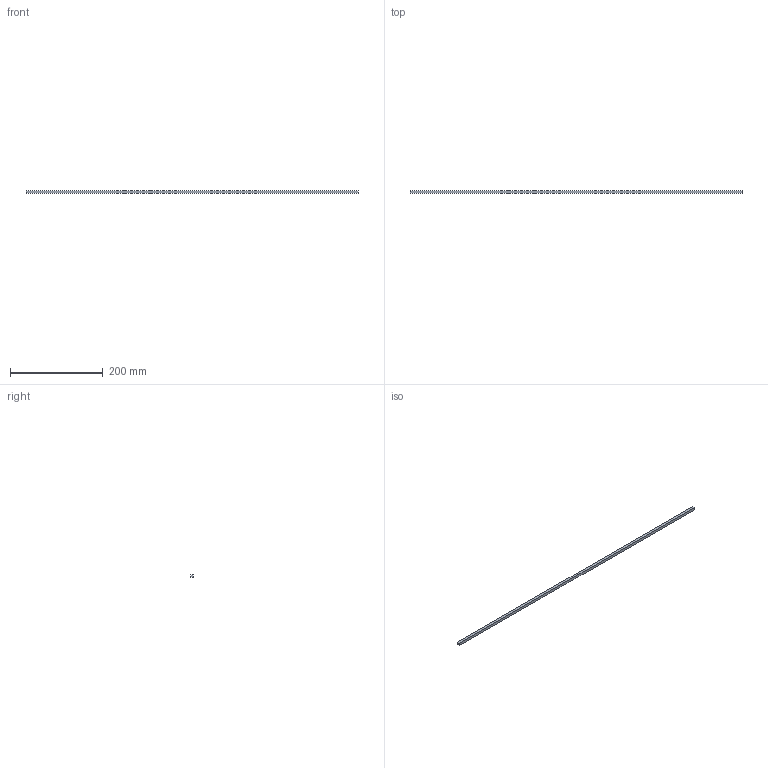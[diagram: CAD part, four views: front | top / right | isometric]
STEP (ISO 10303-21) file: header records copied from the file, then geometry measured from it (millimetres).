
FILE_DESCRIPTION (( 'STEP AP214' ), '1' );
FILE_NAME ('Sensotronic-Antriebswelle_KAB-900.step', '2010-10-15T08:37:53', ( 'grass' ), ( '' ), 'SwSTEP 2.0', 'SolidWorks 2010', '' );
FILE_SCHEMA (( 'AUTOMOTIVE_DESIGN' ));
Length unit declared in the file: millimetre
Products named in the file (1): Sensotronic-Antriebswelle_KAB-900
Bounding box: 714.5 x 6 x 6 mm (x, y, z)
Volume: 25722 mm3; surface area: 17220 mm2
Topology: 1 solids, 1 shells, 6 faces, 12 edges, 8 vertices
Faces by surface type: plane 6
Entity records: 190 total; most frequent: CARTESIAN_POINT 27, DIRECTION 26, ORIENTED_EDGE 24, VECTOR 12, LINE 12, EDGE_CURVE 12, VERTEX_POINT 8, AXIS2_PLACEMENT_3D 7
